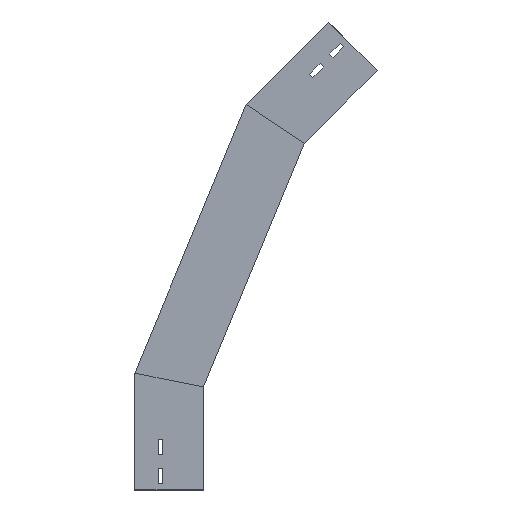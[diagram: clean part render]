
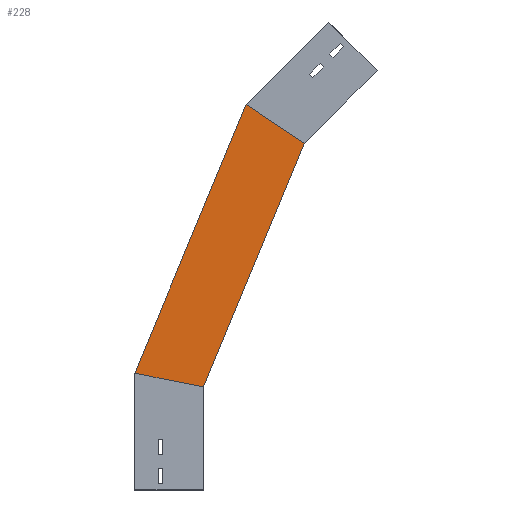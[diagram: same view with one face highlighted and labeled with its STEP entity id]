
A CAD part, left-side view. The second image highlights one B-rep face of the part: STEP entity #228.
In plain terms, the highlighted planar face has unit normal (-1, 0, 0) as drawn and (1, 0, 0) by its records, which use the part's own axes.
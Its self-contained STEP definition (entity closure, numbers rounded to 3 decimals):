
#56 = CARTESIAN_POINT ( 'NONE',  ( 0., 100.799, 167.961 ) ) ;
#96 = PLANE ( 'NONE',  #660 ) ;
#127 = ORIENTED_EDGE ( 'NONE', *, *, #884, .F. ) ;
#228 = ADVANCED_FACE ( 'NONE', ( #787 ), #96, .T. ) ;
#235 = VECTOR ( 'NONE', #863, 1000. ) ;
#255 = VECTOR ( 'NONE', #1158, 1000. ) ;
#415 = CARTESIAN_POINT ( 'NONE',  ( 0., 100., 169.891 ) ) ;
#416 = EDGE_CURVE ( 'NONE', #1209, #492, #961, .T. ) ;
#424 = DIRECTION ( 'NONE',  ( 0., -0.383, 0.924 ) ) ;
#468 = DIRECTION ( 'NONE',  ( 0., 0., -1. ) ) ;
#492 = VERTEX_POINT ( 'NONE', #741 ) ;
#515 = CARTESIAN_POINT ( 'NONE',  ( 0., -146.568, 503.846 ) ) ;
#522 = VERTEX_POINT ( 'NONE', #515 ) ;
#585 = EDGE_CURVE ( 'NONE', #492, #522, #1000, .T. ) ;
#591 = CARTESIAN_POINT ( 'NONE',  ( 0., 8.412, 129.693 ) ) ;
#660 = AXIS2_PLACEMENT_3D ( 'NONE', #1480, #905, #468 ) ;
#699 = LINE ( 'NONE', #591, #1485 ) ;
#733 = EDGE_CURVE ( 'NONE', #1209, #1152, #843, .T. ) ;
#741 = CARTESIAN_POINT ( 'NONE',  ( 0., -61.792, 560.491 ) ) ;
#777 = ORIENTED_EDGE ( 'NONE', *, *, #585, .T. ) ;
#787 = FACE_OUTER_BOUND ( 'NONE', #795, .T. ) ;
#795 = EDGE_LOOP ( 'NONE', ( #870, #777, #127, #849 ) ) ;
#843 = LINE ( 'NONE', #1287, #255 ) ;
#849 = ORIENTED_EDGE ( 'NONE', *, *, #733, .F. ) ;
#863 = DIRECTION ( 'NONE',  ( 0., -0.383, 0.924 ) ) ;
#870 = ORIENTED_EDGE ( 'NONE', *, *, #416, .T. ) ;
#884 = EDGE_CURVE ( 'NONE', #1152, #522, #699, .T. ) ;
#896 = CARTESIAN_POINT ( 'NONE',  ( 0., -212.26, 459.952 ) ) ;
#905 = DIRECTION ( 'NONE',  ( 1., 0., 0. ) ) ;
#961 = LINE ( 'NONE', #56, #235 ) ;
#1000 = LINE ( 'NONE', #896, #1496 ) ;
#1152 = VERTEX_POINT ( 'NONE', #1316 ) ;
#1158 = DIRECTION ( 'NONE',  ( 0., -0.981, -0.195 ) ) ;
#1209 = VERTEX_POINT ( 'NONE', #415 ) ;
#1287 = CARTESIAN_POINT ( 'NONE',  ( 0., -28.701, 144.291 ) ) ;
#1316 = CARTESIAN_POINT ( 'NONE',  ( 0., 0., 150. ) ) ;
#1455 = DIRECTION ( 'NONE',  ( 0., -0.831, -0.556 ) ) ;
#1480 = CARTESIAN_POINT ( 'NONE',  ( 0., 8.412, 129.693 ) ) ;
#1485 = VECTOR ( 'NONE', #424, 1000. ) ;
#1496 = VECTOR ( 'NONE', #1455, 1000. ) ;
